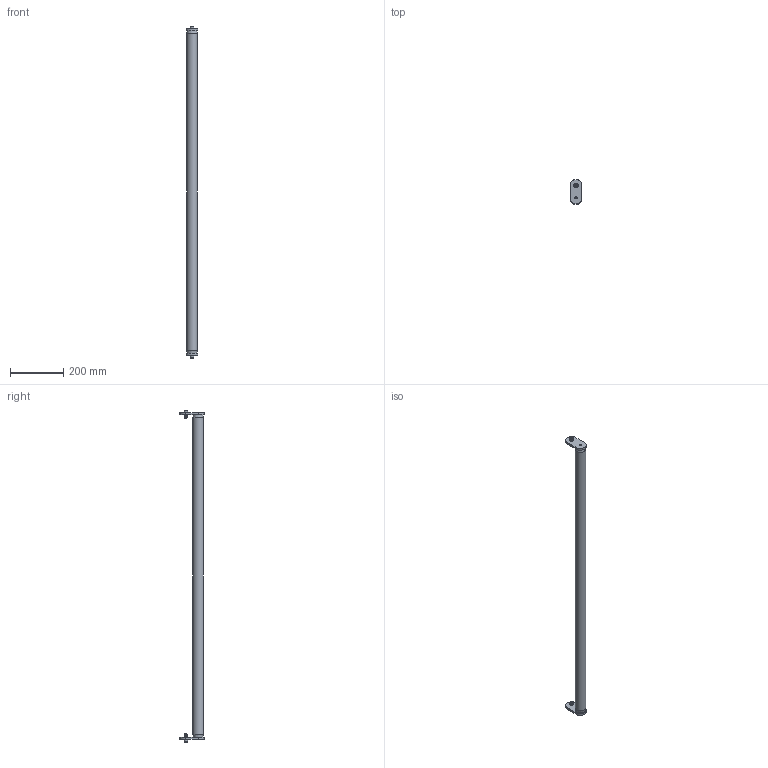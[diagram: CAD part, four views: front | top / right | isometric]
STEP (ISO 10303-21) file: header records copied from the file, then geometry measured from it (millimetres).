
FILE_DESCRIPTION (( 'STEP AP214' ), '1' );
FILE_NAME ('983-004-1200.STEP', '2020-11-23T10:24:14', ( '' ), ( '' ), 'SwSTEP 2.0', 'SolidWorks 2020', '' );
FILE_SCHEMA (( 'AUTOMOTIVE_DESIGN' ));
Length unit declared in the file: millimetre
Products named in the file (8): CHC M8X25 + RP8; CHC THE_910-053H; 982-009; 910-011; 983-004-1200; 982-010-1200; 983-003; RONDELLE_910-111
Assembly tree (8 placements, depth 4):
  983-004-1200
    983-003  x2
      982-009
      910-011
      CHC M8X25 + RP8
        CHC THE_910-053H
        RONDELLE_910-111
    982-010-1200
Bounding box: 45 x 91 x 1245.2 mm (x, y, z)
Volume: 1581243.8 mm3; surface area: 177664.6 mm2
Topology: 9 solids, 9 shells, 119 faces, 261 edges, 166 vertices
Faces by surface type: plane 60, cylinder 33, cone 22, torus 4
Full cylindrical faces by diameter (mm): 6 x2, 6.8 x2, 7.98 x2, 8 x4, 8.4 x2, 8.5 x4, 13 x2, 16 x2, 40 x1
Entity records: 2038 total; most frequent: CARTESIAN_POINT 389, DIRECTION 312, ORIENTED_EDGE 228, AXIS2_PLACEMENT_3D 131, EDGE_CURVE 114, EDGE_LOOP 96, VERTEX_POINT 84, FACE_OUTER_BOUND 78
